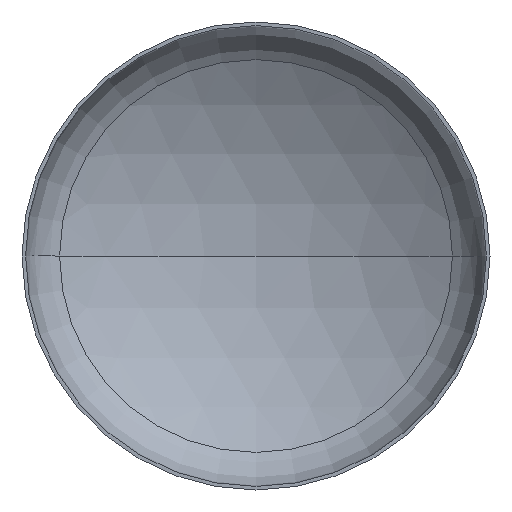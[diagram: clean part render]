
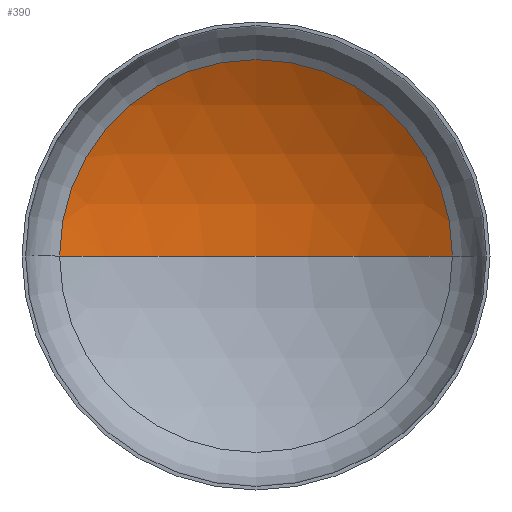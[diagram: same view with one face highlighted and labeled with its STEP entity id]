
A CAD part, front view. The second image highlights one B-rep face of the part: STEP entity #390.
In plain terms, the highlighted spherical face has radius 1440 mm.
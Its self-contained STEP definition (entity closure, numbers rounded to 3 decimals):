
#8 = DIRECTION ( 'NONE',  ( -1., 0., 0. ) ) ;
#25 = VERTEX_POINT ( 'NONE', #246 ) ;
#56 = ORIENTED_EDGE ( 'NONE', *, *, #148, .T. ) ;
#63 = AXIS2_PLACEMENT_3D ( 'NONE', #265, #188, #202 ) ;
#64 = AXIS2_PLACEMENT_3D ( 'NONE', #157, #244, #8 ) ;
#65 = AXIS2_PLACEMENT_3D ( 'NONE', #195, #196, #314 ) ;
#103 = ORIENTED_EDGE ( 'NONE', *, *, #134, .T. ) ;
#110 = ORIENTED_EDGE ( 'NONE', *, *, #161, .F. ) ;
#123 = VERTEX_POINT ( 'NONE', #307 ) ;
#134 = EDGE_CURVE ( 'NONE', #123, #158, #213, .T. ) ;
#137 = CIRCLE ( 'NONE', #64, 1440. ) ;
#142 = EDGE_LOOP ( 'NONE', ( #110, #56, #103 ) ) ;
#148 = EDGE_CURVE ( 'NONE', #25, #123, #137, .T. ) ;
#157 = CARTESIAN_POINT ( 'NONE',  ( 0., -946.919, 0. ) ) ;
#158 = VERTEX_POINT ( 'NONE', #332 ) ;
#161 = EDGE_CURVE ( 'NONE', #25, #158, #329, .T. ) ;
#188 = DIRECTION ( 'NONE',  ( 0., 0., 1. ) ) ;
#195 = CARTESIAN_POINT ( 'NONE',  ( 0., 279.144, 0. ) ) ;
#196 = DIRECTION ( 'NONE',  ( 0., -1., 0. ) ) ;
#199 = CARTESIAN_POINT ( 'NONE',  ( 0., -946.919, 0. ) ) ;
#202 = DIRECTION ( 'NONE',  ( 1., 0., 0. ) ) ;
#213 = CIRCLE ( 'NONE', #65, 755.227 ) ;
#244 = DIRECTION ( 'NONE',  ( 0., 0., -1. ) ) ;
#246 = CARTESIAN_POINT ( 'NONE',  ( 0., 493.081, 0. ) ) ;
#265 = CARTESIAN_POINT ( 'NONE',  ( 0., -946.919, 0. ) ) ;
#282 = FACE_OUTER_BOUND ( 'NONE', #142, .T. ) ;
#297 = AXIS2_PLACEMENT_3D ( 'NONE', #199, #388, #342 ) ;
#307 = CARTESIAN_POINT ( 'NONE',  ( 755.227, 279.144, 0. ) ) ;
#314 = DIRECTION ( 'NONE',  ( 1., 0., 0. ) ) ;
#329 = CIRCLE ( 'NONE', #63, 1440. ) ;
#332 = CARTESIAN_POINT ( 'NONE',  ( -755.227, 279.144, 0. ) ) ;
#342 = DIRECTION ( 'NONE',  ( -1., 0., 0. ) ) ;
#343 = SPHERICAL_SURFACE ( 'NONE', #297, 1440. ) ;
#388 = DIRECTION ( 'NONE',  ( 0., 0., -1. ) ) ;
#390 = ADVANCED_FACE ( 'NONE', ( #282 ), #343, .F. ) ;
